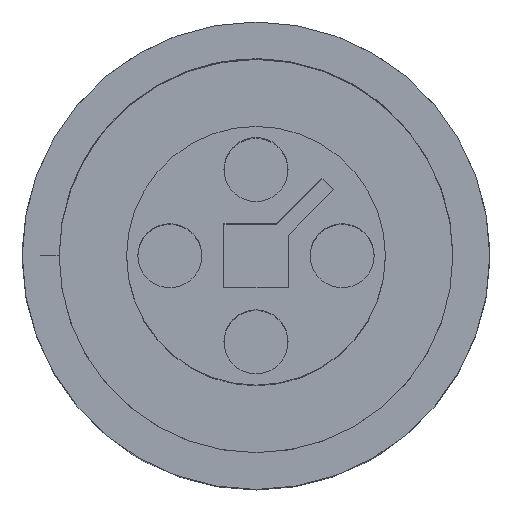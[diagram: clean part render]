
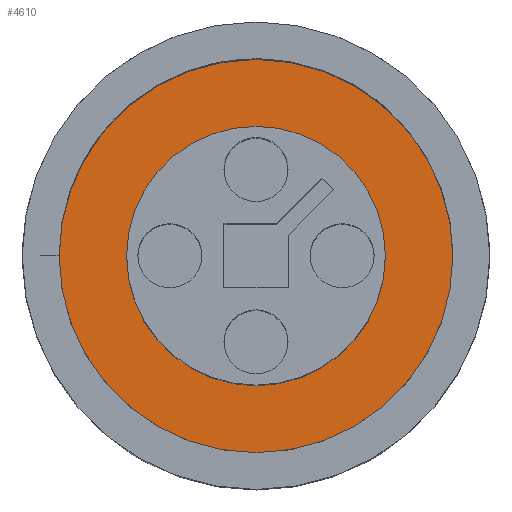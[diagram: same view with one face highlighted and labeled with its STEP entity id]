
A CAD part, top view. The second image highlights one B-rep face of the part: STEP entity #4610.
In plain terms, the highlighted planar face has unit normal (0, 0, 1).
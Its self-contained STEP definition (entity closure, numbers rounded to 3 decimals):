
#211 = DIRECTION ( 'NONE',  ( 1., 0., 0. ) ) ;
#447 = CIRCLE ( 'NONE', #3111, 4.04 ) ;
#527 = CARTESIAN_POINT ( 'NONE',  ( 0., 0., 52.22 ) ) ;
#640 = CARTESIAN_POINT ( 'NONE',  ( 0., 0., 52.22 ) ) ;
#840 = EDGE_CURVE ( 'NONE', #4421, #4557, #447, .T. ) ;
#913 = ORIENTED_EDGE ( 'NONE', *, *, #2531, .T. ) ;
#1092 = CIRCLE ( 'NONE', #5703, 6.15 ) ;
#1121 = EDGE_CURVE ( 'NONE', #4924, #2366, #4490, .T. ) ;
#1210 = CARTESIAN_POINT ( 'NONE',  ( -6.15, 0., 52.22 ) ) ;
#1254 = DIRECTION ( 'NONE',  ( 1., 0., 0. ) ) ;
#1440 = CARTESIAN_POINT ( 'NONE',  ( 0., 0., 52.22 ) ) ;
#1467 = DIRECTION ( 'NONE',  ( 1., 0., 0. ) ) ;
#1519 = DIRECTION ( 'NONE',  ( 0., 0., 1. ) ) ;
#1813 = CARTESIAN_POINT ( 'NONE',  ( 6.15, 0., 52.22 ) ) ;
#1911 = ORIENTED_EDGE ( 'NONE', *, *, #1121, .T. ) ;
#2125 = CARTESIAN_POINT ( 'NONE',  ( 0., 0., 52.22 ) ) ;
#2278 = DIRECTION ( 'NONE',  ( 0., 0., 1. ) ) ;
#2356 = PLANE ( 'NONE',  #2542 ) ;
#2366 = VERTEX_POINT ( 'NONE', #1813 ) ;
#2393 = DIRECTION ( 'NONE',  ( 0., 0., 1. ) ) ;
#2412 = EDGE_CURVE ( 'NONE', #4557, #4421, #2746, .T. ) ;
#2496 = ORIENTED_EDGE ( 'NONE', *, *, #2412, .F. ) ;
#2531 = EDGE_CURVE ( 'NONE', #2366, #4924, #1092, .T. ) ;
#2542 = AXIS2_PLACEMENT_3D ( 'NONE', #5442, #1519, #5137 ) ;
#2657 = AXIS2_PLACEMENT_3D ( 'NONE', #527, #2278, #1467 ) ;
#2746 = CIRCLE ( 'NONE', #2657, 4.04 ) ;
#3111 = AXIS2_PLACEMENT_3D ( 'NONE', #1440, #3666, #3756 ) ;
#3468 = EDGE_LOOP ( 'NONE', ( #5454, #2496 ) ) ;
#3666 = DIRECTION ( 'NONE',  ( 0., 0., 1. ) ) ;
#3687 = FACE_OUTER_BOUND ( 'NONE', #5012, .T. ) ;
#3756 = DIRECTION ( 'NONE',  ( 1., 0., 0. ) ) ;
#4312 = AXIS2_PLACEMENT_3D ( 'NONE', #2125, #5209, #1254 ) ;
#4421 = VERTEX_POINT ( 'NONE', #4989 ) ;
#4490 = CIRCLE ( 'NONE', #4312, 6.15 ) ;
#4557 = VERTEX_POINT ( 'NONE', #4643 ) ;
#4610 = ADVANCED_FACE ( 'NONE', ( #5472, #3687 ), #2356, .T. ) ;
#4643 = CARTESIAN_POINT ( 'NONE',  ( 4.04, 0., 52.22 ) ) ;
#4924 = VERTEX_POINT ( 'NONE', #1210 ) ;
#4989 = CARTESIAN_POINT ( 'NONE',  ( -4.04, 0., 52.22 ) ) ;
#5012 = EDGE_LOOP ( 'NONE', ( #913, #1911 ) ) ;
#5137 = DIRECTION ( 'NONE',  ( 1., 0., 0. ) ) ;
#5209 = DIRECTION ( 'NONE',  ( 0., 0., 1. ) ) ;
#5442 = CARTESIAN_POINT ( 'NONE',  ( 0., 0., 52.22 ) ) ;
#5454 = ORIENTED_EDGE ( 'NONE', *, *, #840, .F. ) ;
#5472 = FACE_BOUND ( 'NONE', #3468, .T. ) ;
#5703 = AXIS2_PLACEMENT_3D ( 'NONE', #640, #2393, #211 ) ;
